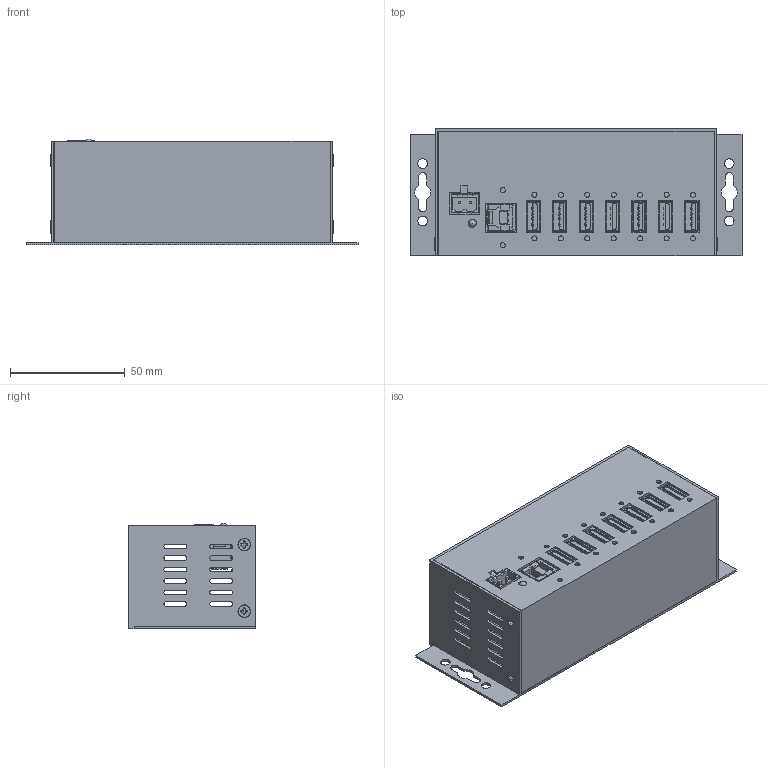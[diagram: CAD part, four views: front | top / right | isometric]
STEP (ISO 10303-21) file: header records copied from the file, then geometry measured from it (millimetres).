
FILE_DESCRIPTION(('FreeCAD Model'),'2;1');
FILE_NAME('Y:/Technische Zeichnungen/EX-1187HMVS/EX-1187HMVS_3D.step', '2018-01-25T09:41:26',('Author'),(''), 'Open CASCADE STEP processor 6.8','FreeCAD','Unknown');
FILE_SCHEMA(('AUTOMOTIVE_DESIGN_CC2 { 1 2 10303 214 -1 1 5 4 }'));
Products named in the file (1): EX-1187HMVS_3D
Bounding box: 144.56 x 55.5 x 46.05 mm (x, y, z)
Volume: 58063.9 mm3; surface area: 96923 mm2
Topology: 4 solids, 8 shells, 2416 faces, 6724 edges, 4488 vertices
Faces by surface type: plane 1878, cylinder 479, cone 45, torus 12, sphere 2
Full cylindrical faces by diameter (mm): 2.2 x16, 2.5 x8, 3 x1, 3.5 x1, 3.6 x4, 4 x6, 4.2 x4, 5.3 x4
Entity records: 234990 total; most frequent: CARTESIAN_POINT 88392, DIRECTION 22579, LINE 14599, VECTOR 14599, ORIENTED_EDGE 13444, PCURVE 13444, DEFINITIONAL_REPRESENTATION 13444, EDGE_CURVE 6722
